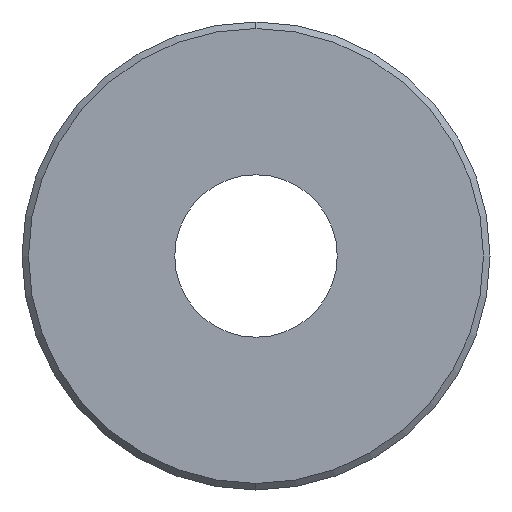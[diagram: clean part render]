
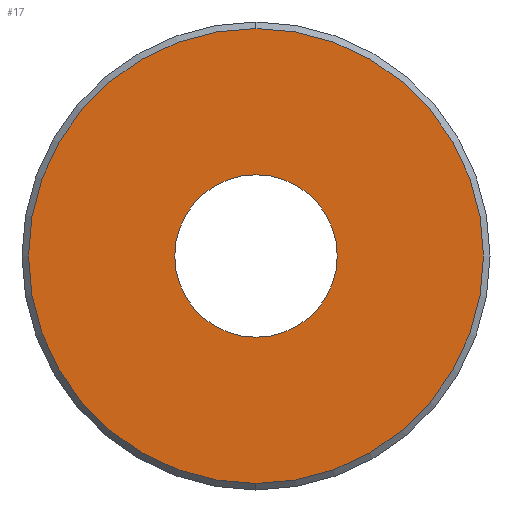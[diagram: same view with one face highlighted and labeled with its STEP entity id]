
A CAD part, left-side view. The second image highlights one B-rep face of the part: STEP entity #17.
In plain terms, the highlighted planar face has unit normal (-1, 0, 0).
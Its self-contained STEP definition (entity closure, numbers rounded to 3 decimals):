
#17 = ADVANCED_FACE('',(#18,#38),#58,.T.);
#18 = FACE_BOUND('',#19,.F.);
#19 = EDGE_LOOP('',(#20,#31));
#20 = ORIENTED_EDGE('',*,*,#21,.F.);
#21 = EDGE_CURVE('',#22,#24,#26,.T.);
#22 = VERTEX_POINT('',#23);
#23 = CARTESIAN_POINT('',(-7.7,20.,17.5));
#24 = VERTEX_POINT('',#25);
#25 = CARTESIAN_POINT('',(-7.7,20.,-17.5));
#26 = CIRCLE('',#27,17.5);
#27 = AXIS2_PLACEMENT_3D('',#28,#29,#30);
#28 = CARTESIAN_POINT('',(-7.7,20.,0.));
#29 = DIRECTION('',(-1.,0.,0.));
#30 = DIRECTION('',(0.,0.,1.));
#31 = ORIENTED_EDGE('',*,*,#32,.F.);
#32 = EDGE_CURVE('',#24,#22,#33,.T.);
#33 = CIRCLE('',#34,17.5);
#34 = AXIS2_PLACEMENT_3D('',#35,#36,#37);
#35 = CARTESIAN_POINT('',(-7.7,20.,0.));
#36 = DIRECTION('',(-1.,0.,0.));
#37 = DIRECTION('',(0.,0.,-1.));
#38 = FACE_BOUND('',#39,.F.);
#39 = EDGE_LOOP('',(#40,#51));
#40 = ORIENTED_EDGE('',*,*,#41,.F.);
#41 = EDGE_CURVE('',#42,#44,#46,.T.);
#42 = VERTEX_POINT('',#43);
#43 = CARTESIAN_POINT('',(-7.7,13.75,0.));
#44 = VERTEX_POINT('',#45);
#45 = CARTESIAN_POINT('',(-7.7,26.25,0.));
#46 = CIRCLE('',#47,6.25);
#47 = AXIS2_PLACEMENT_3D('',#48,#49,#50);
#48 = CARTESIAN_POINT('',(-7.7,20.,0.));
#49 = DIRECTION('',(1.,0.,0.));
#50 = DIRECTION('',(0.,-1.,0.));
#51 = ORIENTED_EDGE('',*,*,#52,.T.);
#52 = EDGE_CURVE('',#42,#44,#53,.T.);
#53 = CIRCLE('',#54,6.25);
#54 = AXIS2_PLACEMENT_3D('',#55,#56,#57);
#55 = CARTESIAN_POINT('',(-7.7,20.,0.));
#56 = DIRECTION('',(-1.,0.,0.));
#57 = DIRECTION('',(0.,-1.,0.));
#58 = PLANE('',#59);
#59 = AXIS2_PLACEMENT_3D('',#60,#61,#62);
#60 = CARTESIAN_POINT('',(-7.7,20.,0.));
#61 = DIRECTION('',(-1.,0.,0.));
#62 = DIRECTION('',(0.,0.,1.));
